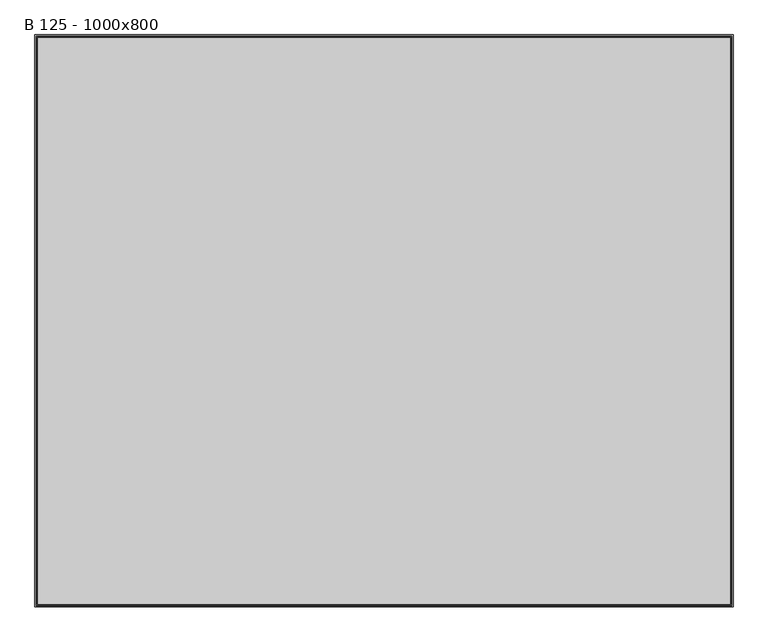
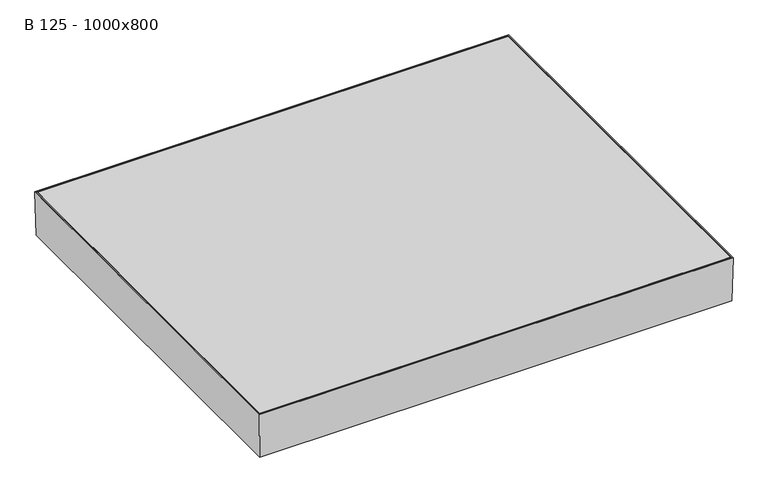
"""IFC4 building model written with IfcOpenShell, lengths in millimetres: proxy geometry, ME_ST_WPB_Access Cover UNIFACE DEEP 35 SS_ACO : B 125 - 1000x800."""

from ifc_helpers import new_model, si_unit, frame, origin, place, context, project, spatial, polyline, outline, extrude, faceted_brep, source, transform, mapped, element, save


def b_125_1000x800_f79dd427(model_context):
    return source(origin(), model_context, "Body", "SolidModel", [
        extrude(outline(polyline([(551.0, 451.0), (551.0, -451.0), (-551.0, -451.0), (-551.0, 451.0), (551.0, 451.0)])), frame((0.0, 0.0, -5.0), z_axis=(0.0, 0.0, 1.0), x_axis=(1.0, 0.0, 0.0)), (0.0, 0.0, 1.0), 5.0),
        faceted_brep([(548.2666483, 448.2666483, -92.9987834), (-548.2666483, 448.2666483, -92.9987834), (-548.2666483, -448.2666483, -92.9987834), (548.2666483, -448.2666483, -92.9987834), (550.2087117, 450.2087117, -95.0), (550.2087117, -450.2087117, -95.0), (-550.2087117, -450.2087117, -95.0), (-550.2087117, 450.2087117, -95.0), (553.0, 453.0, 0.0), (553.0, -453.0, 0.0), (-553.0, -453.0, 0.0), (-553.0, 453.0, 0.0), (550.9991369, -450.9991369, 0.0), (550.9991369, 450.9991369, 0.0), (-550.9991369, -450.9991369, 0.0), (-550.9991369, 450.9991369, 0.0)], [[[0, 1, 2, 3]], [[4, 5, 6, 7]], [[4, 8, 9, 5]], [[5, 9, 10, 6]], [[6, 10, 11, 7]], [[8, 4, 7, 11]], [[0, 3, 12, 13]], [[3, 2, 14, 12]], [[2, 1, 15, 14]], [[1, 0, 13, 15]], [[9, 8, 11, 10], [13, 12, 14, 15]]]),
        faceted_brep([(552.9224838, 452.9224838, -107.0), (555.0, 455.0, 0.0), (555.0, -455.0, 0.0), (552.9224838, -452.9224838, -107.0), (-555.0, -455.0, 0.0), (-552.9224838, -452.9224838, -107.0), (-555.0, 455.0, 0.0), (-552.9224838, 452.9224838, -107.0), (500.0, 400.0, -107.0), (-500.0, 400.0, -107.0), (-500.0, -400.0, -107.0), (500.0, -400.0, -107.0), (550.960939, 450.960939, -105.0), (-550.960939, 450.960939, -105.0), (-550.960939, -450.960939, -105.0), (550.960939, -450.960939, -105.0), (502.0, -402.0, -105.0), (-502.0, -402.0, -105.0), (-502.0, 402.0, -105.0), (502.0, 402.0, -105.0), (552.9996231, -452.9996231, 0.0), (-552.9996231, -452.9996231, 0.0), (-552.9996231, 452.9996231, 0.0), (552.9996231, 452.9996231, 0.0), (500.0, 400.0, -95.0), (500.0, -400.0, -95.0), (502.0, 402.0, -95.0), (502.0, -402.0, -95.0), (-500.0, -400.0, -95.0), (-502.0, -402.0, -95.0), (-500.0, 400.0, -95.0), (-502.0, 402.0, -95.0)], [[[0, 1, 2, 3]], [[3, 2, 4, 5]], [[5, 4, 6, 7]], [[3, 5, 7, 0], [8, 9, 10, 11]], [[12, 13, 14, 15], [16, 17, 18, 19]], [[1, 6, 4, 2], [20, 21, 22, 23]], [[7, 6, 1, 0]], [[24, 8, 11, 25]], [[19, 26, 27, 16]], [[25, 11, 10, 28]], [[16, 27, 29, 17]], [[28, 10, 9, 30]], [[17, 29, 31, 18]], [[30, 9, 8, 24]], [[26, 31, 29, 27], [25, 28, 30, 24]], [[18, 31, 26, 19]], [[23, 12, 15, 20]], [[20, 15, 14, 21]], [[21, 14, 13, 22]], [[22, 13, 12, 23]]]),
    ])


if __name__ == "__main__":
    model = new_model("IFC4")
    model_context = context("Model", 3, world=origin())
    ifc_project = project(units=[si_unit("LENGTHUNIT", "METRE", prefix="MILLI")], contexts=[model_context])
    site = spatial("IfcSite", under=ifc_project)
    building = spatial("IfcBuilding", under=site)
    placement = place(None, origin())
    b_125_1000x800_shape = b_125_1000x800_f79dd427(model_context)
    element("IfcBuildingElementProxy", 1, Name="ME_ST_WPB_Access Cover UNIFACE DEEP 35 SS_ACO : B 125 - 1000x800", ObjectType="ME_ST_WPB_Access Cover UNIFACE DEEP 35 SS_ACO : B 125 - 1000x800", at=placement, inside=building, context=model_context, shape_type="MappedRepresentation", body=[
        mapped(b_125_1000x800_shape, transform((0.0, 0.0, 0.0), x_axis=(1.0, 0.0, 0.0), y_axis=(0.0, 1.0, 0.0), z_axis=(0.0, 0.0, 1.0))),
    ])
    save(model, "model.ifc")
